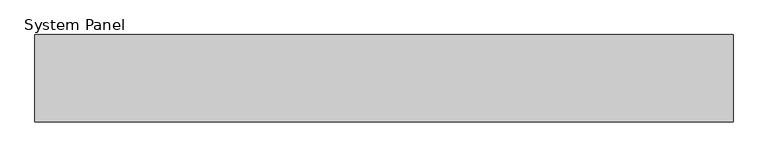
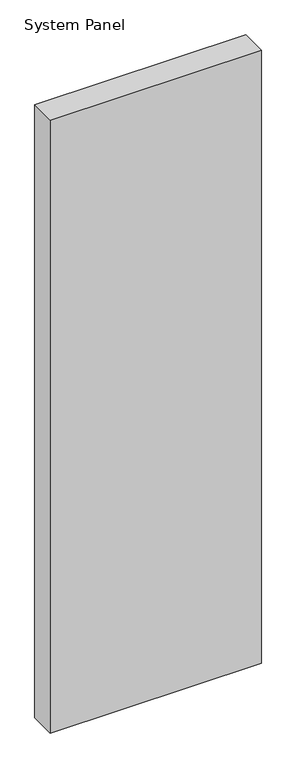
"""IFC4 building model written with IfcOpenShell, lengths in millimetres: plate geometry, System Panel : Equitilt 150mm Vertical - Plain RHEA - EPS-FR."""

from ifc_helpers import new_model, si_unit, origin, origin_with_axes, place, context, project, spatial, polyline, outline, extrude, source, transform, mapped, element, save


def system_panel_6bba82fc(model_context):
    return source(origin(), model_context, "Body", "SweptSolid", [
        extrude(outline(polyline([(600.0, -150.0), (-600.0, -150.0), (-600.0, 0.0), (600.0, 0.0), (600.0, -150.0)])), origin_with_axes(), (0.0, 0.0, 1.0), 3679.9704237),
    ])


if __name__ == "__main__":
    model = new_model("IFC4")
    model_context = context("Model", 3, world=origin())
    ifc_project = project(units=[si_unit("LENGTHUNIT", "METRE", prefix="MILLI")], contexts=[model_context])
    site = spatial("IfcSite", under=ifc_project)
    building = spatial("IfcBuilding", under=site)
    placement = place(None, origin())
    system_panel_shape = system_panel_6bba82fc(model_context)
    element("IfcPlate", 1, ObjectType="System Panel : Equitilt 150mm Vertical - Plain RHEA - EPS-FR", at=placement, inside=building, context=model_context, shape_type="MappedRepresentation", body=[
        mapped(system_panel_shape, transform((0.0, 0.0, 0.0), x_axis=(1.0, 0.0, 0.0), y_axis=(0.0, 1.0, 0.0), z_axis=(0.0, 0.0, 1.0))),
    ])
    save(model, "model.ifc")
